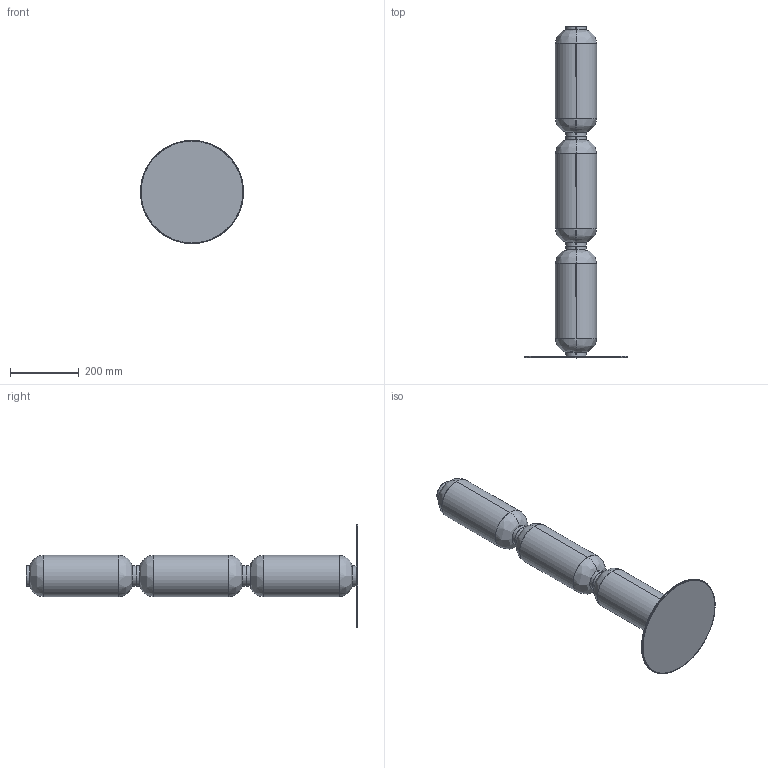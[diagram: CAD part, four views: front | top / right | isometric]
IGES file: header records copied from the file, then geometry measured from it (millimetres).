
Start section: SolidWorks IGES file using analytic representation for surfaces
Global section: file name: C:\Users\Agus\Desktop\NOVEDADES_2023_1\ELMA_1312\P1312\3D\ELMA_P1312.IGS; native system: SolidWorks 2018; preprocessor: SolidWorks 2018; author: Agus; date: 230214.124147; units: millimetre
Bounding box: 300 x 965 x 300 mm (x, y, z)
Surface area: 910772.3 mm2 (no closed solid volume)
Topology: 0 solids, 0 shells, 96 faces, 1704 edges, 1704 vertices
Faces by surface type: bspline 62, revolution 34
